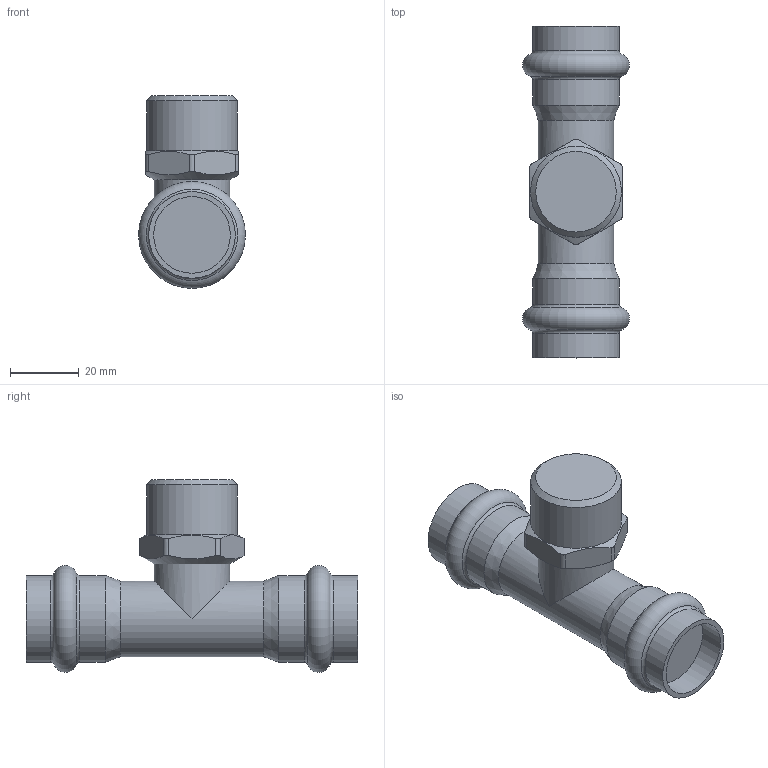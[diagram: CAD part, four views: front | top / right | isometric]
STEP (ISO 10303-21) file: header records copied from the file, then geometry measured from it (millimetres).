
FILE_DESCRIPTION(('STEP AP203'), '1');
FILE_NAME('VTi.933.I.220522', '', ('UNSPECIFIED'), ('UNSPECIFIED'), 'C3D Converter', 'C3D Toolkit', '');
FILE_SCHEMA(('CONFIG_CONTROL_DESIGN'));
Length unit declared in the file: millimetre
Bounding box: 31.09 x 96.5 x 56.04 mm (x, y, z)
Volume: 55996.7 mm3; surface area: 12753.1 mm2
Topology: 1 solids, 1 shells, 37 faces, 86 edges, 53 vertices
Faces by surface type: cylinder 15, plane 11, torus 6, cone 5
Full cylindrical faces by diameter (mm): 22 x2, 22.3 x2, 25.2 x4, 26.441 x1
Entity records: 1873 total; most frequent: CARTESIAN_POINT 1119, DIRECTION 134, ORIENTED_EDGE 130, EDGE_CURVE 65, AXIS2_PLACEMENT_3D 61, EDGE_LOOP 60, VERTEX_POINT 53, ADVANCED_FACE 37
